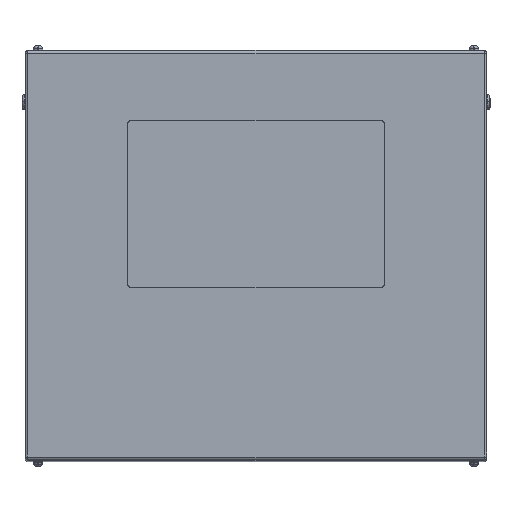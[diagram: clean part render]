
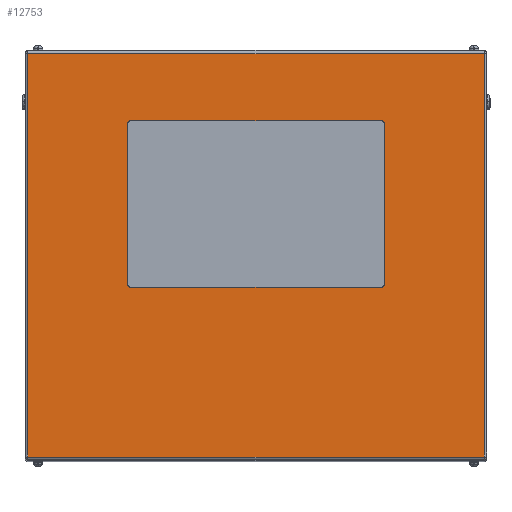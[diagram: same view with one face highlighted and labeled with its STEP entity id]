
A CAD part, top view. The second image highlights one B-rep face of the part: STEP entity #12753.
In plain terms, the highlighted planar face has unit normal (0, 0, 1).
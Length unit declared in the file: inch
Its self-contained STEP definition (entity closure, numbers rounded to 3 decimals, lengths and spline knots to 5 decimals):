
#14 = CARTESIAN_POINT ( 'NONE',  ( -9.75, -2.5, 33. ) ) ;
#74 = CARTESIAN_POINT ( 'NONE',  ( -10., 10.25, 33. ) ) ;
#206 = CARTESIAN_POINT ( 'NONE',  ( 18., 16., 33. ) ) ;
#234 = EDGE_CURVE ( 'NONE', #4525, #10411, #6139, .T. ) ;
#325 = LINE ( 'NONE', #5508, #17151 ) ;
#779 = AXIS2_PLACEMENT_3D ( 'NONE', #6823, #19884, #6725 ) ;
#807 = ORIENTED_EDGE ( 'NONE', *, *, #1594, .T. ) ;
#1194 = VERTEX_POINT ( 'NONE', #10057 ) ;
#1459 = CARTESIAN_POINT ( 'NONE',  ( 17.8, -15.734, 33. ) ) ;
#1594 = EDGE_CURVE ( 'NONE', #16909, #13180, #10439, .T. ) ;
#1847 = EDGE_CURVE ( 'NONE', #1194, #4525, #3695, .T. ) ;
#2066 = EDGE_CURVE ( 'NONE', #13180, #15714, #325, .T. ) ;
#2204 = ORIENTED_EDGE ( 'NONE', *, *, #6810, .F. ) ;
#3096 = ORIENTED_EDGE ( 'NONE', *, *, #3730, .F. ) ;
#3314 = VECTOR ( 'NONE', #21029, 39.37008 ) ;
#3387 = DIRECTION ( 'NONE',  ( 0., -1., 0. ) ) ;
#3561 = AXIS2_PLACEMENT_3D ( 'NONE', #206, #5037, #11666 ) ;
#3637 = FACE_OUTER_BOUND ( 'NONE', #7644, .T. ) ;
#3695 = LINE ( 'NONE', #3922, #10034 ) ;
#3730 = EDGE_CURVE ( 'NONE', #8250, #19509, #15609, .T. ) ;
#3922 = CARTESIAN_POINT ( 'NONE',  ( -9.75, 10.5, 33. ) ) ;
#3974 = CIRCLE ( 'NONE', #9527, 0.25 ) ;
#4353 = VERTEX_POINT ( 'NONE', #12300 ) ;
#4525 = VERTEX_POINT ( 'NONE', #13131 ) ;
#5037 = DIRECTION ( 'NONE',  ( 0., 0., -1. ) ) ;
#5508 = CARTESIAN_POINT ( 'NONE',  ( 17.8, 16., 33. ) ) ;
#5687 = VECTOR ( 'NONE', #20356, 39.37008 ) ;
#6139 = CIRCLE ( 'NONE', #10972, 0.25 ) ;
#6193 = DIRECTION ( 'NONE',  ( -1., 0., 0. ) ) ;
#6308 = AXIS2_PLACEMENT_3D ( 'NONE', #13304, #15107, #19868 ) ;
#6564 = EDGE_CURVE ( 'NONE', #10411, #8250, #19391, .T. ) ;
#6725 = DIRECTION ( 'NONE',  ( 1., 0., 0. ) ) ;
#6757 = LINE ( 'NONE', #8371, #19327 ) ;
#6810 = EDGE_CURVE ( 'NONE', #19261, #4353, #12872, .T. ) ;
#6823 = CARTESIAN_POINT ( 'NONE',  ( 9.75, -2.25, 33. ) ) ;
#7251 = EDGE_CURVE ( 'NONE', #14512, #16909, #6757, .T. ) ;
#7391 = EDGE_CURVE ( 'NONE', #15714, #14512, #18610, .T. ) ;
#7401 = DIRECTION ( 'NONE',  ( -1., 0., 0. ) ) ;
#7644 = EDGE_LOOP ( 'NONE', ( #10777, #807, #20456, #10455 ) ) ;
#7957 = CARTESIAN_POINT ( 'NONE',  ( 10., 10.25, 33. ) ) ;
#8250 = VERTEX_POINT ( 'NONE', #12058 ) ;
#8371 = CARTESIAN_POINT ( 'NONE',  ( -17.8, 16., 33. ) ) ;
#9527 = AXIS2_PLACEMENT_3D ( 'NONE', #14936, #16244, #18192 ) ;
#9754 = EDGE_CURVE ( 'NONE', #19509, #19261, #19647, .T. ) ;
#9884 = ORIENTED_EDGE ( 'NONE', *, *, #14385, .F. ) ;
#10034 = VECTOR ( 'NONE', #6193, 39.37008 ) ;
#10057 = CARTESIAN_POINT ( 'NONE',  ( 9.75, 10.5, 33. ) ) ;
#10382 = DIRECTION ( 'NONE',  ( 0., 1., 0. ) ) ;
#10411 = VERTEX_POINT ( 'NONE', #20913 ) ;
#10439 = LINE ( 'NONE', #13782, #5687 ) ;
#10455 = ORIENTED_EDGE ( 'NONE', *, *, #7391, .T. ) ;
#10777 = ORIENTED_EDGE ( 'NONE', *, *, #7251, .T. ) ;
#10972 = AXIS2_PLACEMENT_3D ( 'NONE', #17989, #14647, #13154 ) ;
#11666 = DIRECTION ( 'NONE',  ( -1., 0., 0. ) ) ;
#11724 = ORIENTED_EDGE ( 'NONE', *, *, #234, .F. ) ;
#11784 = CARTESIAN_POINT ( 'NONE',  ( -17.8, -15.734, 33. ) ) ;
#12058 = CARTESIAN_POINT ( 'NONE',  ( -10., -2.25, 33. ) ) ;
#12159 = CARTESIAN_POINT ( 'NONE',  ( -17.8, 15.734, 33. ) ) ;
#12300 = CARTESIAN_POINT ( 'NONE',  ( 10., -2.25, 33. ) ) ;
#12523 = DIRECTION ( 'NONE',  ( 0., 1., 0. ) ) ;
#12753 = ADVANCED_FACE ( 'NONE', ( #13293, #3637 ), #19857, .F. ) ;
#12872 = CIRCLE ( 'NONE', #779, 0.25 ) ;
#12942 = DIRECTION ( 'NONE',  ( 0., -1., 0. ) ) ;
#12948 = CARTESIAN_POINT ( 'NONE',  ( 9.75, -2.5, 33. ) ) ;
#13131 = CARTESIAN_POINT ( 'NONE',  ( -9.75, 10.5, 33. ) ) ;
#13154 = DIRECTION ( 'NONE',  ( 1., 0., 0. ) ) ;
#13180 = VERTEX_POINT ( 'NONE', #1459 ) ;
#13293 = FACE_BOUND ( 'NONE', #13474, .T. ) ;
#13304 = CARTESIAN_POINT ( 'NONE',  ( -9.75, -2.25, 33. ) ) ;
#13474 = EDGE_LOOP ( 'NONE', ( #15280, #3096, #16896, #11724, #16260, #9884, #19614, #2204 ) ) ;
#13782 = CARTESIAN_POINT ( 'NONE',  ( 17.8, -15.734, 33. ) ) ;
#14091 = CARTESIAN_POINT ( 'NONE',  ( 18., 15.734, 33. ) ) ;
#14385 = EDGE_CURVE ( 'NONE', #20167, #1194, #3974, .T. ) ;
#14512 = VERTEX_POINT ( 'NONE', #12159 ) ;
#14647 = DIRECTION ( 'NONE',  ( 0., 0., 1. ) ) ;
#14936 = CARTESIAN_POINT ( 'NONE',  ( 9.75, 10.25, 33. ) ) ;
#15107 = DIRECTION ( 'NONE',  ( 0., 0., 1. ) ) ;
#15280 = ORIENTED_EDGE ( 'NONE', *, *, #9754, .F. ) ;
#15609 = CIRCLE ( 'NONE', #6308, 0.25 ) ;
#15714 = VERTEX_POINT ( 'NONE', #16313 ) ;
#16244 = DIRECTION ( 'NONE',  ( 0., 0., 1. ) ) ;
#16250 = VECTOR ( 'NONE', #12942, 39.37008 ) ;
#16260 = ORIENTED_EDGE ( 'NONE', *, *, #1847, .F. ) ;
#16313 = CARTESIAN_POINT ( 'NONE',  ( 17.8, 15.734, 33. ) ) ;
#16467 = CARTESIAN_POINT ( 'NONE',  ( 10., 10.25, 33. ) ) ;
#16896 = ORIENTED_EDGE ( 'NONE', *, *, #6564, .F. ) ;
#16909 = VERTEX_POINT ( 'NONE', #11784 ) ;
#17151 = VECTOR ( 'NONE', #10382, 39.37008 ) ;
#17450 = LINE ( 'NONE', #7957, #19416 ) ;
#17748 = CARTESIAN_POINT ( 'NONE',  ( -9.75, -2.5, 33. ) ) ;
#17989 = CARTESIAN_POINT ( 'NONE',  ( -9.75, 10.25, 33. ) ) ;
#18192 = DIRECTION ( 'NONE',  ( -1., 0., 0. ) ) ;
#18610 = LINE ( 'NONE', #14091, #18978 ) ;
#18978 = VECTOR ( 'NONE', #7401, 39.37008 ) ;
#19237 = EDGE_CURVE ( 'NONE', #4353, #20167, #17450, .T. ) ;
#19261 = VERTEX_POINT ( 'NONE', #12948 ) ;
#19327 = VECTOR ( 'NONE', #3387, 39.37008 ) ;
#19391 = LINE ( 'NONE', #74, #16250 ) ;
#19416 = VECTOR ( 'NONE', #12523, 39.37008 ) ;
#19509 = VERTEX_POINT ( 'NONE', #17748 ) ;
#19614 = ORIENTED_EDGE ( 'NONE', *, *, #19237, .F. ) ;
#19647 = LINE ( 'NONE', #14, #3314 ) ;
#19857 = PLANE ( 'NONE',  #3561 ) ;
#19868 = DIRECTION ( 'NONE',  ( 1., 0., 0. ) ) ;
#19884 = DIRECTION ( 'NONE',  ( 0., 0., 1. ) ) ;
#20167 = VERTEX_POINT ( 'NONE', #16467 ) ;
#20356 = DIRECTION ( 'NONE',  ( 1., 0., 0. ) ) ;
#20456 = ORIENTED_EDGE ( 'NONE', *, *, #2066, .T. ) ;
#20913 = CARTESIAN_POINT ( 'NONE',  ( -10., 10.25, 33. ) ) ;
#21029 = DIRECTION ( 'NONE',  ( 1., 0., 0. ) ) ;
